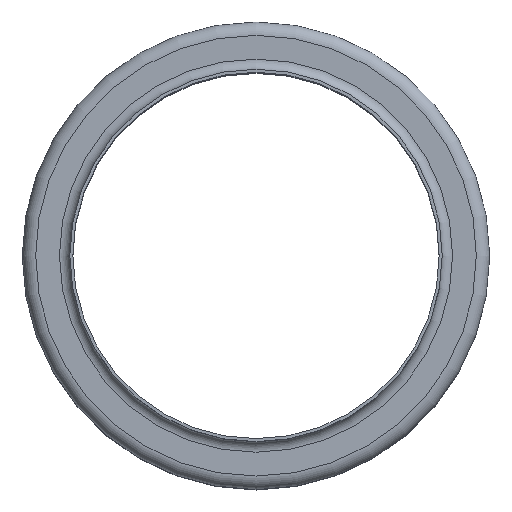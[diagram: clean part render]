
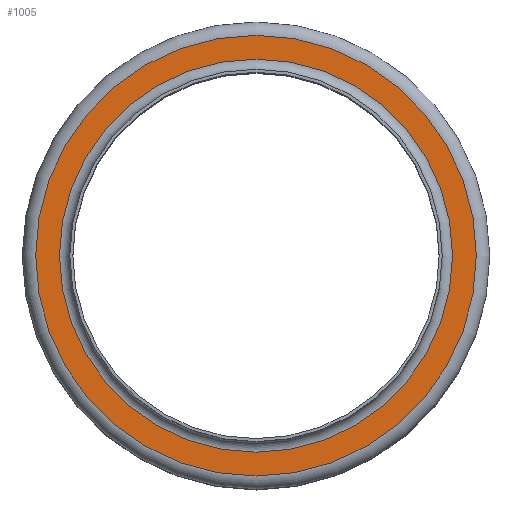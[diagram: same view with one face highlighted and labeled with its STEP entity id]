
A CAD part, top view. The second image highlights one B-rep face of the part: STEP entity #1005.
In plain terms, the highlighted planar face has unit normal (0, 0, 1).
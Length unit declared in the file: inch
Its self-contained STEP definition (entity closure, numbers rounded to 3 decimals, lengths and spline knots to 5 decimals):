
#102=FACE_BOUND('',#276,.T.);
#169=FACE_OUTER_BOUND('',#275,.T.);
#275=EDGE_LOOP('',(#776));
#276=EDGE_LOOP('',(#777));
#389=CIRCLE('',#1194,1.55575);
#390=CIRCLE('',#1196,1.74425);
#470=VERTEX_POINT('',#1830);
#471=VERTEX_POINT('',#1834);
#575=EDGE_CURVE('',#470,#470,#389,.T.);
#576=EDGE_CURVE('',#471,#471,#390,.T.);
#776=ORIENTED_EDGE('',*,*,#576,.F.);
#777=ORIENTED_EDGE('',*,*,#575,.T.);
#858=PLANE('',#1195);
#1005=ADVANCED_FACE('',(#169,#102),#858,.T.);
#1194=AXIS2_PLACEMENT_3D('',#1832,#1534,#1535);
#1195=AXIS2_PLACEMENT_3D('',#1833,#1536,#1537);
#1196=AXIS2_PLACEMENT_3D('',#1835,#1538,#1539);
#1534=DIRECTION('center_axis',(0.,0.,-1.));
#1535=DIRECTION('ref_axis',(1.,0.,0.));
#1536=DIRECTION('center_axis',(0.,0.,1.));
#1537=DIRECTION('ref_axis',(1.,0.,0.));
#1538=DIRECTION('center_axis',(0.,0.,-1.));
#1539=DIRECTION('ref_axis',(1.,0.,0.));
#1830=CARTESIAN_POINT('',(1.55575,0.,-0.08175));
#1832=CARTESIAN_POINT('Origin',(0.,0.,-0.08175));
#1833=CARTESIAN_POINT('Origin',(0.,1.74425,-0.08175));
#1834=CARTESIAN_POINT('',(1.74425,0.,-0.08175));
#1835=CARTESIAN_POINT('Origin',(0.,0.,-0.08175));
